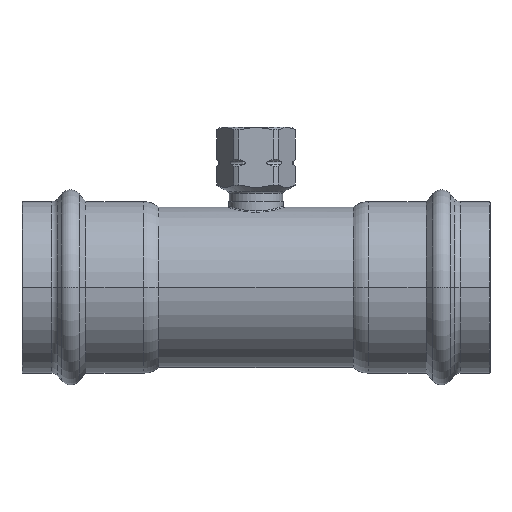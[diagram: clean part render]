
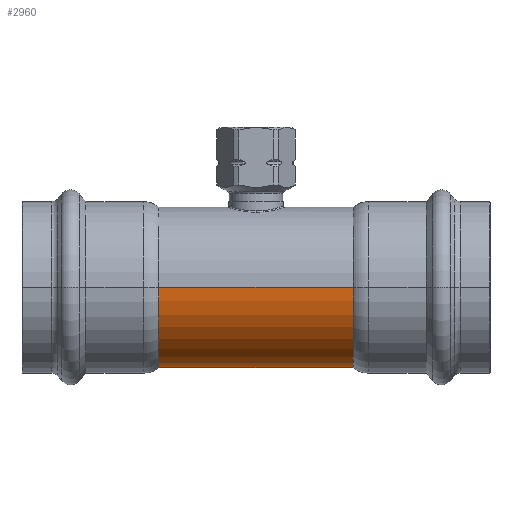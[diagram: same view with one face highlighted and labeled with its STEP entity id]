
A CAD part, left-side view. The second image highlights one B-rep face of the part: STEP entity #2960.
In plain terms, the highlighted cylindrical face has radius 27 mm (diameter 54 mm), a partial arc.
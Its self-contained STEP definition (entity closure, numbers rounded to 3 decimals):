
#2410=CARTESIAN_POINT('',(58.006,36.962,0.));
#2420=VERTEX_POINT('',#2410);
#2510=CARTESIAN_POINT('',(4.006,36.962,0.));
#2520=VERTEX_POINT('',#2510);
#2550=CARTESIAN_POINT('',(31.006,36.962,0.));
#2560=DIRECTION('',(0.,1.,0.));
#2570=DIRECTION('',(-1.,0.,0.));
#2580=AXIS2_PLACEMENT_3D('',#2550,#2560,#2570);
#2590=CIRCLE('',#2580,27.);
#2600=EDGE_CURVE('',#2420,#2520,#2590,.T.);
#2650=CARTESIAN_POINT('',(31.006,4.162,0.));
#2660=DIRECTION('',(0.,1.,0.));
#2670=DIRECTION('',(1.,0.,0.));
#2680=AXIS2_PLACEMENT_3D('',#2650,#2660,#2670);
#2690=CYLINDRICAL_SURFACE('',#2680,27.);
#2700=CARTESIAN_POINT('',(58.006,4.162,0.));
#2710=DIRECTION('',(0.,1.,0.));
#2720=VECTOR('',#2710,1.);
#2730=LINE('',#2700,#2720);
#2740=CARTESIAN_POINT('',(58.006,-28.638,0.));
#2750=VERTEX_POINT('',#2740);
#2760=EDGE_CURVE('',#2750,#2420,#2730,.T.);
#2770=ORIENTED_EDGE('',*,*,#2760,.F.);
#2780=ORIENTED_EDGE('',*,*,#2600,.F.);
#2790=CARTESIAN_POINT('',(4.006,4.162,
0.));
#2800=DIRECTION('',(0.,1.,0.));
#2810=VECTOR('',#2800,1.);
#2820=LINE('',#2790,#2810);
#2830=CARTESIAN_POINT('',(4.006,-28.638,0.));
#2840=VERTEX_POINT('',#2830);
#2850=EDGE_CURVE('',#2840,#2520,#2820,.T.);
#2860=ORIENTED_EDGE('',*,*,#2850,.T.);
#2870=CARTESIAN_POINT('',(31.006,-28.638,0.));
#2880=DIRECTION('',(0.,1.,0.));
#2890=DIRECTION('',(-1.,0.,0.));
#2900=AXIS2_PLACEMENT_3D('',#2870,#2880,#2890);
#2910=CIRCLE('',#2900,27.);
#2920=EDGE_CURVE('',#2750,#2840,#2910,.T.);
#2930=ORIENTED_EDGE('',*,*,#2920,.T.);
#2940=EDGE_LOOP('',(#2930,#2860,#2780,#2770));
#2950=FACE_OUTER_BOUND('',#2940,.T.);
#2960=ADVANCED_FACE('',(#2950),#2690,.T.);
